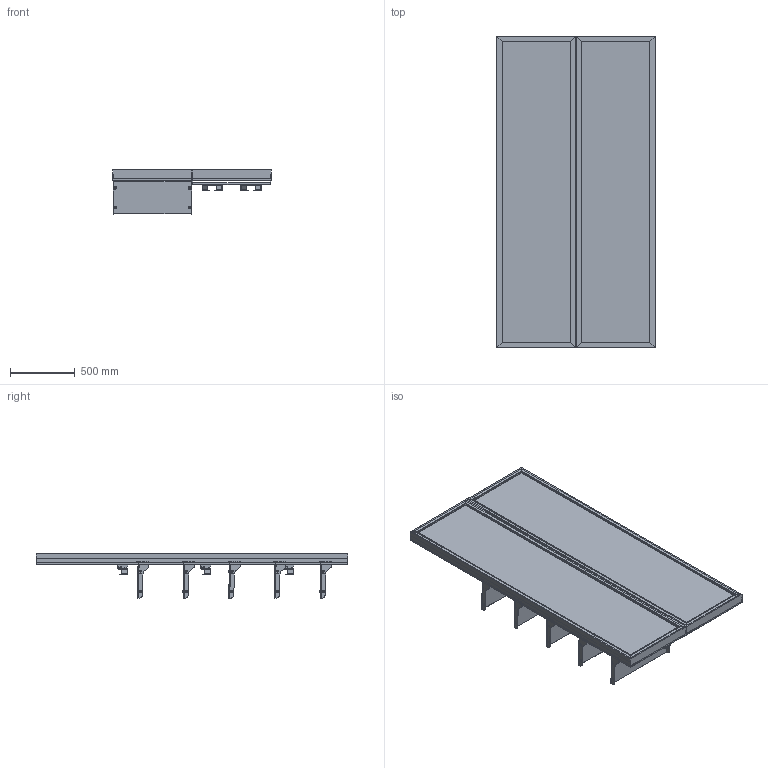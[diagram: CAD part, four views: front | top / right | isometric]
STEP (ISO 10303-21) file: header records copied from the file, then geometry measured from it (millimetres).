
FILE_DESCRIPTION (( 'STEP AP203' ), '1' );
FILE_NAME ('Padel Retail Display - Padel & Ball Solution 1.STEP', '2026-03-30T11:51:50', ( '' ), ( '' ), 'SwSTEP 2.0', 'SolidWorks 2025', '' );
FILE_SCHEMA (( 'CONFIG_CONTROL_DESIGN' ));
Length unit declared in the file: millimetre
Products named in the file (18): 0001-31-124.STEP; 0001-31-SA29.STEP; 0001-31-115.STEP; 0001-31-114.STEP; 0001-31-123.STEP; 0000-31-113.STEP; 368-01-GA01; Padel Retail Display - Padel & Ball Solution 1; 0001-31-SA23 - 610W Rear Support Bar.STEP; 0001-31-SA28 - 610W Glass Shelf_Assem5; 0001-31-102.STEP; Padel Retail Display - Ball Solution_Assem1; 0001-31-SA28 - 610W Glass Shelf.STEP; 0001-31-103.STEP; 0001-31-GA01 - 610W Slotted Upright; 0001-31-SA23 - 610W Rear Support Bar_Assem6; Padel Racket Display 610mm - Single Holder_Assem4; 0001-31-SA30.STEP
Assembly tree (44 placements, depth 6):
  Padel Retail Display - Padel & Ball Solution 1
    Padel Racket Display 610mm - Single Holder_Assem4
      0001-31-GA01 - 610W Slotted Upright
      0001-31-SA23 - 610W Rear Support Bar_Assem6  x3
        0001-31-SA23 - 610W Rear Support Bar.STEP
          0001-31-102.STEP
          0001-31-103.STEP  x2
      368-01-GA01  x6
    Padel Retail Display - Ball Solution_Assem1
      0001-31-GA01 - 610W Slotted Upright
      0001-31-SA28 - 610W Glass Shelf_Assem5  x5
        0001-31-SA28 - 610W Glass Shelf.STEP
          0001-31-SA29.STEP
            0000-31-113.STEP
            0001-31-114.STEP  x2
          0001-31-SA30.STEP
            0000-31-113.STEP
            0001-31-114.STEP  x2
          0001-31-115.STEP
          0001-31-123.STEP  x8
          0001-31-124.STEP  x4
Bounding box: 1219.5 x 2400 x 340.44 mm (x, y, z)
Volume: 19918383.6 mm3; surface area: 18225887.8 mm2
Topology: 122 solids, 122 shells, 2944 faces, 7824 edges, 5016 vertices
Faces by surface type: plane 2038, cylinder 826, cone 80
Entity records: 23885 total; most frequent: CARTESIAN_POINT 4089, ORIENTED_EDGE 3790, DIRECTION 3273, EDGE_CURVE 1895, VECTOR 1661, LINE 1661, VERTEX_POINT 1238, AXIS2_PLACEMENT_3D 806
